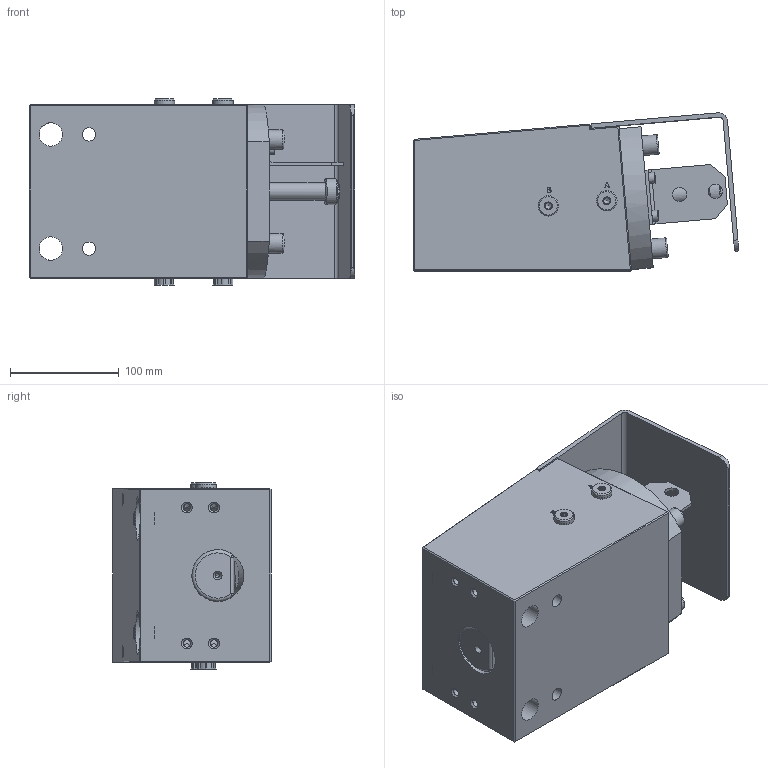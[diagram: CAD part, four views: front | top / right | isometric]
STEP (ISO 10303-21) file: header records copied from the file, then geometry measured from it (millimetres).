
FILE_DESCRIPTION((''),'2;1');
FILE_NAME('\\easAd\Users\breep\Desktop\MOD1010-400-RH-200-P-550(M20).stp-17-09-13.stp','2013-09-17T10:52:07',('breep'),(''),'Autodesk Inventor 2013','Autodesk Inventor 2013','');
FILE_SCHEMA(('AUTOMOTIVE_DESIGN { 1 0 10303 214 1 1 1 1 }'));
Length unit declared in the file: millimetre
Products named in the file (1): Part1
Bounding box: 299.46 x 145.46 x 171.1 mm (x, y, z)
Volume: 4177248.9 mm3; surface area: 417059.2 mm2
Topology: 1 solids, 22 shells, 629 faces, 1524 edges, 969 vertices
Faces by surface type: plane 296, cylinder 168, cone 100, torus 33, bspline 26, sphere 4, revolution 2
Full cylindrical faces by diameter (mm): 3.242 x1, 4 x7, 4.134 x2, 4.917 x6, 5 x2, 6 x9, 6.3 x1, 6.647 x4, 7 x3, 9 x2, 10 x2, 10.106 x4, 10.8 x2, 11.2 x2, 11.43 x6, 11.6 x2, 12 x4, 12.1 x2, 13 x8, 14.376 x1, 16 x3, 16.03 x1, 16.1 x1, 16.25 x1, 16.4 x3, 16.8 x3, 18 x5, 18.8 x2, 19.6 x1, 21.5 x2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
Entity records: 17358 total; most frequent: CARTESIAN_POINT 3813, DIRECTION 2666, ORIENTED_EDGE 2288, EDGE_CURVE 1144, AXIS2_PLACEMENT_3D 1074, EDGE_LOOP 963, VERTEX_POINT 839, STYLED_ITEM 630
